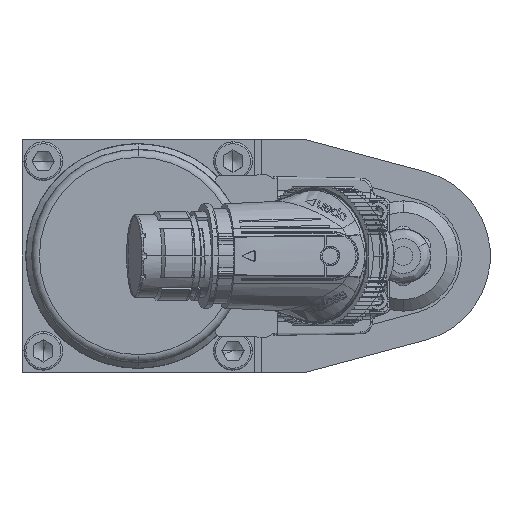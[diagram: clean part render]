
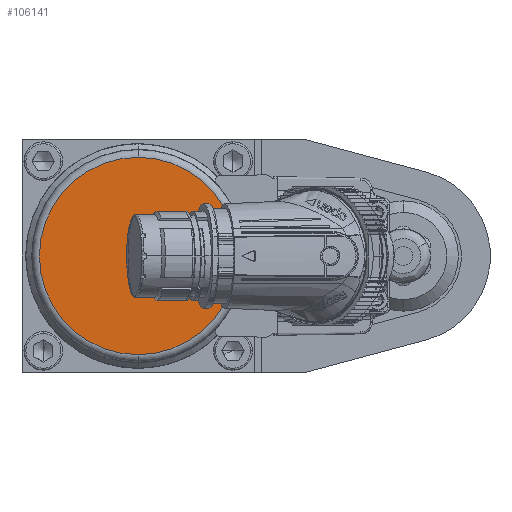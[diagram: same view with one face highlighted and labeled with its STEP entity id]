
A CAD part, left-side view. The second image highlights one B-rep face of the part: STEP entity #106141.
In plain terms, the highlighted planar face has unit normal (-1, 0, 0).
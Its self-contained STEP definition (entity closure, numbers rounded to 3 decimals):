
#1095 = DIRECTION ( 'NONE',  ( 0., 0., 1. ) ) ;
#6778 = AXIS2_PLACEMENT_3D ( 'NONE', #53796, #53433, #1095 ) ;
#12147 = CIRCLE ( 'NONE', #29618, 25.5 ) ;
#14005 = CARTESIAN_POINT ( 'NONE',  ( -371., 0., 25.5 ) ) ;
#18818 = EDGE_CURVE ( 'NONE', #70403, #37815, #45439, .T. ) ;
#22148 = CARTESIAN_POINT ( 'NONE',  ( -371., 0., 0. ) ) ;
#29618 = AXIS2_PLACEMENT_3D ( 'NONE', #97984, #45195, #106839 ) ;
#31000 = DIRECTION ( 'NONE',  ( 0., 0., 1. ) ) ;
#31868 = EDGE_CURVE ( 'NONE', #37815, #70403, #12147, .T. ) ;
#37815 = VERTEX_POINT ( 'NONE', #106558 ) ;
#39895 = EDGE_LOOP ( 'NONE', ( #104931, #109681 ) ) ;
#45009 = PLANE ( 'NONE',  #6778 ) ;
#45195 = DIRECTION ( 'NONE',  ( -1., 0., 0. ) ) ;
#45439 = CIRCLE ( 'NONE', #73029, 25.5 ) ;
#53433 = DIRECTION ( 'NONE',  ( -1., 0., 0. ) ) ;
#53796 = CARTESIAN_POINT ( 'NONE',  ( -371., 0., 0. ) ) ;
#64934 = FACE_OUTER_BOUND ( 'NONE', #39895, .T. ) ;
#70403 = VERTEX_POINT ( 'NONE', #14005 ) ;
#73029 = AXIS2_PLACEMENT_3D ( 'NONE', #22148, #83758, #31000 ) ;
#83758 = DIRECTION ( 'NONE',  ( -1., 0., 0. ) ) ;
#97984 = CARTESIAN_POINT ( 'NONE',  ( -371., 0., 0. ) ) ;
#104931 = ORIENTED_EDGE ( 'NONE', *, *, #18818, .T. ) ;
#106141 = ADVANCED_FACE ( 'NONE', ( #64934 ), #45009, .T. ) ;
#106558 = CARTESIAN_POINT ( 'NONE',  ( -371., 0., -25.5 ) ) ;
#106839 = DIRECTION ( 'NONE',  ( 0., 0., 1. ) ) ;
#109681 = ORIENTED_EDGE ( 'NONE', *, *, #31868, .T. ) ;
